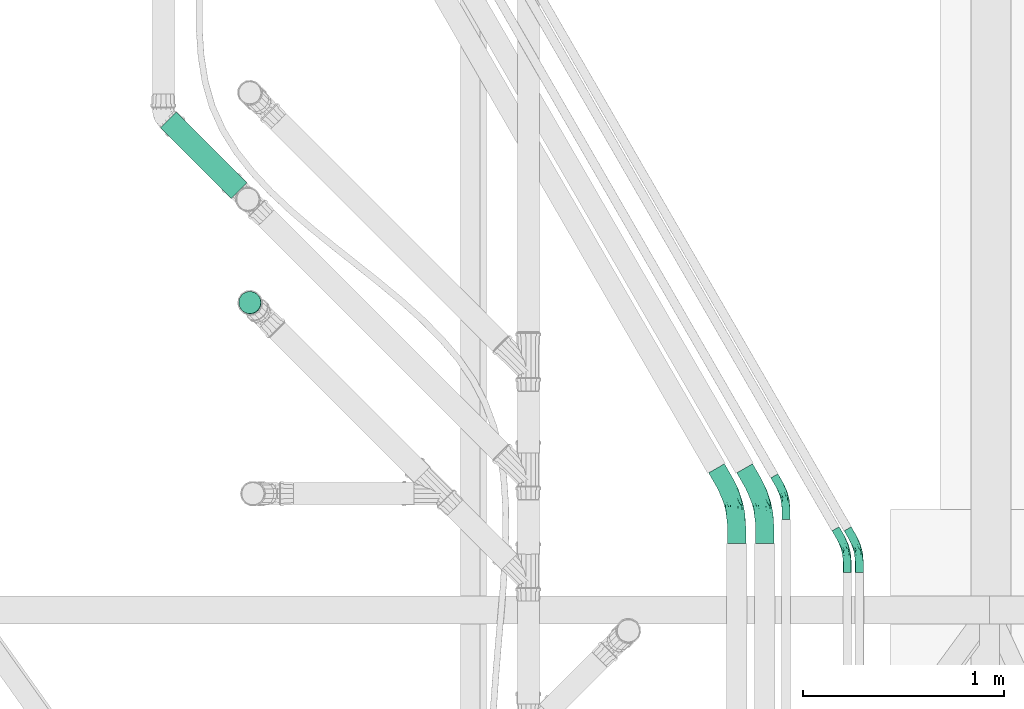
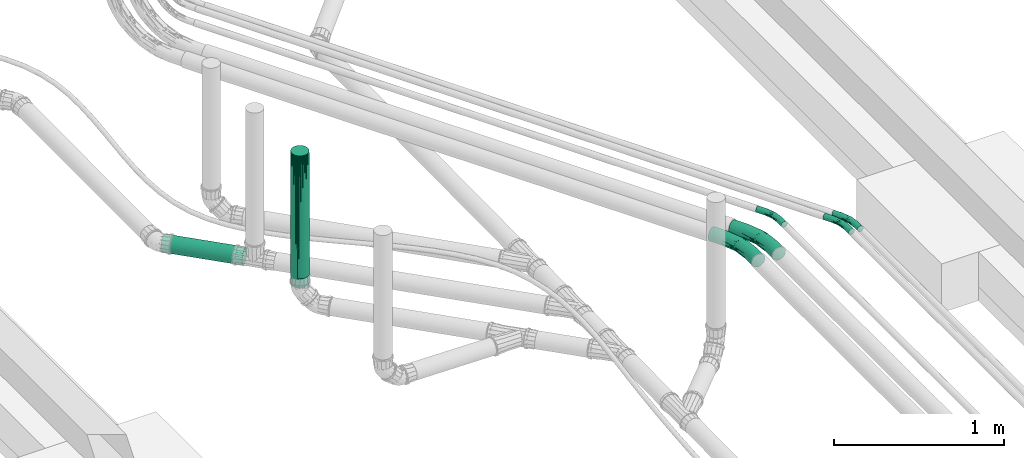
# One storey, part 11 of 18: 5 cable carrier fittings, 3 pipe segments.
"""IFC4 building model written with IfcOpenShell, lengths in centimetres."""

from ifc_helpers import new_model, entity, si_unit, converted_unit, derived_unit, direction, frame, origin, place, context, subcontext, project, spatial, arc, indexed_curve, outline, extrude, polygons, source, transform, mapped, material, type_object, type_shapes, element, save


model = new_model("IFC4")

# Units and contexts
model_context = context("Model", 3, precision=0.001, world=origin(), true_north=direction((6.123233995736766e-17, 1.0)))
body_context = subcontext(model_context, "Body", "Model", "MODEL_VIEW")
ifc_project = project(units=[si_unit("LENGTHUNIT", "METRE", prefix="CENTI"), si_unit("AREAUNIT", "SQUARE_METRE"), converted_unit("PLANEANGLEUNIT", "DEGREE", entity("IfcPlaneAngleMeasure", 0.017453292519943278), si_unit("PLANEANGLEUNIT", "RADIAN"), dimensions=[0, 0, 0, 0, 0, 0, 0]), si_unit("VOLUMEUNIT", "CUBIC_METRE"), derived_unit("THERMALTRANSMITTANCEUNIT", [(si_unit("MASSUNIT", "GRAM", prefix="KILO"), 1), (si_unit("THERMODYNAMICTEMPERATUREUNIT", "KELVIN"), -1), (si_unit("TIMEUNIT", "SECOND"), -3)])], contexts=[model_context])

# Site, building, storey
site_placement = place(None, frame((-0.003347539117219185, 0.0, 0.0)))
site = spatial("IfcSite", under=ifc_project, at=site_placement, Name="Default", CompositionType="ELEMENT")
building_placement = place(site_placement, origin())
building = spatial("IfcBuilding", under=site, at=building_placement, CompositionType="ELEMENT")
storey_placement = place(building_placement, frame((0.0, 0.0, -30.0)))
storey = spatial("IfcBuildingStorey", under=building, at=storey_placement, Name="Fondation B.O.", CompositionType="ELEMENT", Elevation=-30.0)

# Pipe segments
pipe_segment_type = type_object("IfcPipeSegmentType", Name="Canalisation:Valsir PP3", PredefinedType="NOTDEFINED")
pipe_segment_1_placement = place(storey_placement, origin())
element("IfcPipeSegment", 1, at=pipe_segment_1_placement, inside=storey, type_object=pipe_segment_type, Name="Canalisation:Valsir PP3", ObjectType="Canalisation:Valsir PP3", PredefinedType="NOTDEFINED", context=body_context, shape_type="SweptSolid", body=[
    extrude(outline(indexed_curve([(5.499999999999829, 2.1657342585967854e-13), (3.8890872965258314, 3.889087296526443), (8.967493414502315e-14, 5.4999999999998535), (-3.889087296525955, 3.889087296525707), (-5.499999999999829, -2.1657342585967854e-13), (-3.8890872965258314, -3.889087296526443), (-8.967493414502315e-14, -5.4999999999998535), (3.889087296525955, -3.889087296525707)], segments=[arc(1, 2, 3), arc(3, 4, 5), arc(5, 6, 7), arc(7, 8, 1)], self_intersect=False)), frame((-6026.283552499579, -2160.077577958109, -18.1437827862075), z_axis=(-0.0016165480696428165, 0.0016165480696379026, 0.9999973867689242), x_axis=(0.7071067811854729, 0.7071067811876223, 0.0)), (0.0, 0.0, 1.0), 88.1440131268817),
])
pipe_segment_2_placement = place(storey_placement, origin())
element("IfcPipeSegment", 2, at=pipe_segment_2_placement, inside=storey, type_object=pipe_segment_type, Name="Canalisation:Valsir PP3", ObjectType="Canalisation:Valsir PP3", PredefinedType="NOTDEFINED", context=body_context, shape_type="SweptSolid", body=[
    extrude(outline(indexed_curve([(5.500000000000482, 0.0), (3.889087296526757, 3.8890872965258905), (8.662937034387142e-13, 5.500000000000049), (-3.889087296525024, 3.8890872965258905), (-5.4999999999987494, 0.0), (-3.889087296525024, -3.8890872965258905), (8.662937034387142e-13, -5.500000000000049), (3.889087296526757, -3.8890872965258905)], segments=[arc(1, 2, 3), arc(3, 4, 5), arc(5, 6, 7), arc(7, 8, 1)], self_intersect=False)), frame((-6026.426041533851, -2159.935088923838, -24.994335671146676)), (0.0, 0.0, 1.0), 94.68953567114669),
])
pipe_segment_3_placement = place(storey_placement, origin())
element("IfcPipeSegment", 3, at=pipe_segment_3_placement, inside=storey, type_object=pipe_segment_type, Name="Canalisation:Valsir PP3", ObjectType="Canalisation:Valsir PP3", PredefinedType="NOTDEFINED", context=body_context, shape_type="SweptSolid", body=[
    extrude(outline(indexed_curve([(5.5000000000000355, -4.1547311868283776e-14), (3.889087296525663, 3.889087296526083), (-2.8034983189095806e-13, 5.500000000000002), (-3.88908729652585, 3.8890872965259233), (-5.5000000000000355, 1.4476987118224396e-14), (-3.889087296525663, -3.889087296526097), (2.8034983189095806e-13, -5.500000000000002), (3.88908729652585, -3.889087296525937)], segments=[arc(1, 2, 3), arc(3, 4, 5), arc(5, 6, 7), arc(7, 8, 1)], self_intersect=False)), frame((-6066.96057461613, -2069.0164124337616, -37.219289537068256), z_axis=(0.7070891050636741, -0.707053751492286, -0.009999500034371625), x_axis=(0.7070891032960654, 0.7071244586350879, 0.0)), (0.0, 0.0, 1.0), 49.71025077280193),
])

# Cable carrier fittings
ifc_material = material(Name="<Unnamed>")
cable_carrier_fitting_type_1 = type_object("IfcCableCarrierFittingType", Name="Courbure de conduit en plastique rigide - Sans raccords:Raccord TPC BT", PredefinedType="NOTDEFINED", material=ifc_material)
shared_shape_1 = source(origin(), body_context, "Body", "Tessellation", [
    polygons([(-11.598043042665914, -2.050000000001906, -1.936944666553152e-13), (-11.59804304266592, -1.980147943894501, 0.5305790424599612), (-11.598043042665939, -1.7753520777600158, 1.0249999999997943), (-11.598043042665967, -1.4495689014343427, 1.4495689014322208), (-11.598043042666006, -1.025000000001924, 1.7753520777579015), (-11.598043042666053, -0.5305790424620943, 1.9801479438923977), (-11.5980430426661, -1.928082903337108e-12, 2.0499999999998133), (-11.59804304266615, 0.5305790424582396, 1.980147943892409), (-11.598043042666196, 1.024999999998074, 1.7753520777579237), (-11.598043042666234, 1.4495689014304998, 1.4495689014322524), (-11.598043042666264, 1.775352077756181, 1.0249999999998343), (-11.598043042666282, 1.9801479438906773, 0.5305790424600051), (-11.598043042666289, 2.0499999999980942, -1.7382326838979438e-13), (-11.598043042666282, 1.980147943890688, -0.5305790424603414), (-11.598043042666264, 1.7753520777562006, -1.0250000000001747), (-11.598043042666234, 1.4495689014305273, -1.449568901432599), (-11.598043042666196, 1.0249999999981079, -1.7753520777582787), (-11.59804304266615, 0.5305790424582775, -1.980147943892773), (-11.5980430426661, -1.890663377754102e-12, -2.0500000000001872), (-11.598043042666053, -0.5305790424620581, -1.9801479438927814), (-11.598043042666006, -1.0250000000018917, -1.7753520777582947), (-11.598043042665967, -1.4495689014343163, -1.4495689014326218), (-11.598043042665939, -1.7753520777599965, -1.0250000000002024), (-11.59804304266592, -1.9801479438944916, -0.5305790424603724), (-6.207043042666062, -2.050000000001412, -1.936944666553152e-13), (-6.207043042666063, -1.9801479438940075, 0.5305790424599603), (-6.207043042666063, -1.7753520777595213, 1.0249999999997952), (-6.207043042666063, -1.449568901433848, 1.4495689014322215), (-6.207043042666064, -1.0250000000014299, 1.7753520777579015), (-6.207043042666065, -0.5305790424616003, 1.9801479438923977), (-6.207043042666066, -1.434024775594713e-12, 2.0499999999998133), (-6.207043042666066, 0.5305790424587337, 1.980147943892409), (-6.207043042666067, 1.024999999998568, 1.7753520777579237), (-6.207043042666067, 1.4495689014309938, 1.4495689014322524), (-6.207043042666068, 1.7753520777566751, 1.0249999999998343), (-6.207043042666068, 1.9801479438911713, 0.5305790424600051), (-6.207043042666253, 2.049999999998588, -1.610779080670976e-13), (-6.207043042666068, 1.980147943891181, -0.530579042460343), (-6.207043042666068, 1.7753520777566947, -1.0250000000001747), (-6.207043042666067, 1.4495689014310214, -1.449568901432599), (-6.207043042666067, 1.0249999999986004, -1.7753520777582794), (-6.207043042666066, 0.5305790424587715, -1.980147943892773), (-6.207043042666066, -1.394784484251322e-12, -2.0500000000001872), (-6.207043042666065, -0.5305790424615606, -1.980147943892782), (-6.207043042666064, -1.0250000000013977, -1.7753520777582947), (-6.207043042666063, -1.4495689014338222, -1.4495689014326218), (-6.207043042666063, -1.7753520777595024, -1.0250000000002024), (-6.207043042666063, -1.9801479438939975, -0.5305790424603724), (4.35045695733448, 4.878873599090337, -1.7382326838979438e-13), (1.0147122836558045, 3.3233903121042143, -1.7382326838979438e-13), (-2.5404617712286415, 2.3707842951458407, -1.7382326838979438e-13), (-1.8285042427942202, -1.6669274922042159, -1.936944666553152e-13), (2.4169948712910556, -0.529349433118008, -1.936944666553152e-13), (6.400456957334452, 1.3281694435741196, -1.936944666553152e-13), (6.36553092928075, 1.3886630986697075, 0.5305790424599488), (6.263132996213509, 1.5660215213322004, 1.024999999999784), (6.100241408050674, 1.8481580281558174, 1.4495689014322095), (5.887956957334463, 2.215845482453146, 1.7753520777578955), (5.640746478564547, 2.6440265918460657, 1.980147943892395), (5.375456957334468, 3.103521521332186, 2.049999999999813), (5.110167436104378, 3.563016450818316, 1.980147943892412), (4.862956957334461, 3.991197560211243, 1.7753520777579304), (4.650672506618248, 4.358885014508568, 1.449568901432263), (4.4877809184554, 4.6410215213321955, 1.0249999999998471), (4.38538298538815, 4.818379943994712, 0.530579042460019), (0.30061555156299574, -1.1219125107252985, 0.5360938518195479), (0.21074490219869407, -0.7865106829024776, 1.2413464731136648), (-0.006522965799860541, 0.024344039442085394, 1.890842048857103), (-0.2787375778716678, 1.0402628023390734, 2.0334726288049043), (-0.5329282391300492, 1.9889152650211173, 1.6310042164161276), (-0.7009558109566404, 2.616002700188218, 0.7913237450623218), (-0.7325137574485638, 2.733778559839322, 0.38750155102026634), (-0.8382040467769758, -0.6559384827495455, 1.6221343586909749), (-0.9279908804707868, 0.3277755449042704, 2.031547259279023), (-1.0342576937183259, 1.3839449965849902, 1.8965805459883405), (-1.0915708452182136, 2.2383416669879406, 1.2534079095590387), (-1.555750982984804, -1.402739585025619, 0.90551990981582), (2.7627402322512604, -0.20701174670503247, 0.8419216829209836), (4.385382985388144, 4.818379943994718, -0.5305790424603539), (4.487780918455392, 4.641021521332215, -1.025000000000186), (4.650672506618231, 4.358885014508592, -1.4495689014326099), (4.8629569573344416, 3.99119756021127, -1.7753520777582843), (5.1101674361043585, 3.56301645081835, -1.9801479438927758), (5.375456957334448, 3.10352152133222, -2.0500000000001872), (5.640746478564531, 2.6440265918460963, -1.9801479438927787), (5.8879569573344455, 2.2158454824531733, -1.7753520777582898), (6.100241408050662, 1.8481580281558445, -1.4495689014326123), (6.263132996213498, 1.5660215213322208, -1.0250000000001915), (6.365530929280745, 1.3886630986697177, -0.5305790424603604), (0.3006155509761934, -1.1219125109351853, -0.5360938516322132), (0.21074490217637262, -0.786510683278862, -1.2413464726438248), (-0.006522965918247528, 0.02434403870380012, -1.8908420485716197), (-0.2787375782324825, 1.040262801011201, -2.0334726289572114), (-0.5329282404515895, 1.9889152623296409, -1.631004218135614), (-0.7009558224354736, 2.616002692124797, -0.7913237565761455), (-0.7325138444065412, 2.7337785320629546, -0.3875015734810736), (1.0538752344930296, -0.14895736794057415, -1.6221343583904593), (0.6397758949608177, 0.7478573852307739, -2.031547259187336), (0.20372092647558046, 1.7156603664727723, -1.8965805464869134), (-0.17384272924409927, 2.484246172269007, -1.2534079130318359), (2.0486896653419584, -0.43693262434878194, -0.9055199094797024), (-2.289097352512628, -1.5606475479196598, -0.8419216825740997), (11.06919990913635, 4.023669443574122, -1.9278408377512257e-13), (11.034273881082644, 4.084163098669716, -0.5305790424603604), (10.931875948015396, 4.261521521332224, -1.0250000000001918), (10.768984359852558, 4.5436580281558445, -1.449568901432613), (10.556699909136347, 4.911345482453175, -1.7753520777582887), (10.30948943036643, 5.339526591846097, -1.9801479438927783), (10.044199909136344, 5.799021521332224, -2.0500000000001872), (9.778910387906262, 6.258516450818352, -1.9801479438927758), (9.531699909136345, 6.686697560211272, -1.7753520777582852), (9.319415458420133, 7.0543850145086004, -1.4495689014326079), (9.156523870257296, 7.33652152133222, -1.0250000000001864), (9.054125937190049, 7.513879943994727, -0.5305790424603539), (9.019199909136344, 7.57437359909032, -1.6289867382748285e-13), (9.054125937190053, 7.51387994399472, 0.5305790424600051), (9.1565238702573, 7.336521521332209, 1.0249999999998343), (9.319415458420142, 7.0543850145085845, 1.4495689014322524), (9.531699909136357, 6.686697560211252, 1.7753520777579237), (9.778910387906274, 6.258516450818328, 1.980147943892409), (10.044199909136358, 5.799021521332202, 2.0499999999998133), (10.309489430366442, 5.3395265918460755, 1.9801479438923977), (10.556699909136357, 4.911345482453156, 1.7753520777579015), (10.768984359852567, 4.543658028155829, 1.4495689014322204), (10.931875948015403, 4.261521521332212, 1.0249999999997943), (11.034273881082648, 4.084163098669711, 0.5305790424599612)], [[[19, 20, 21, 22, 23, 24, 1, 2, 3, 4, 5, 6, 7, 8, 9, 10, 11, 12, 13, 14, 15, 16, 17, 18]], [[2, 1, 25, 26]], [[27, 3, 2, 26]], [[5, 4, 28, 29]], [[27, 28, 4, 3]], [[6, 5, 29, 30]], [[30, 31, 7, 6]], [[9, 8, 32, 33]], [[34, 10, 9, 33]], [[12, 11, 35, 36]], [[34, 35, 11, 10]], [[13, 12, 36, 37]], [[32, 8, 7, 31]], [[14, 13, 37, 38]], [[39, 15, 14, 38]], [[17, 16, 40, 41]], [[39, 40, 16, 15]], [[18, 17, 41, 42]], [[42, 43, 19, 18]], [[21, 20, 44, 45]], [[46, 22, 21, 45]], [[24, 23, 47, 48]], [[46, 47, 23, 22]], [[1, 24, 48, 25]], [[44, 20, 19, 43]], [[66, 77, 26]], [[52, 26, 25]], [[56, 57, 67]], [[77, 67, 27]], [[68, 29, 73]], [[67, 28, 27]], [[31, 30, 74]], [[30, 29, 68]], [[31, 74, 69]], [[58, 59, 68]], [[29, 28, 73]], [[33, 32, 75]], [[34, 33, 70]], [[35, 34, 76]], [[35, 76, 71]], [[33, 75, 70]], [[62, 63, 70]], [[36, 72, 51]], [[71, 72, 36]], [[67, 77, 78]], [[51, 37, 36]], [[36, 35, 71]], [[65, 72, 71]], [[32, 31, 69]], [[64, 65, 71]], [[66, 52, 53]], [[60, 61, 69]], [[74, 60, 69]], [[58, 73, 57]], [[26, 77, 27]], [[74, 59, 60]], [[26, 52, 66]], [[55, 78, 66]], [[68, 73, 58]], [[67, 78, 56]], [[53, 54, 55]], [[78, 77, 66]], [[30, 68, 74]], [[51, 72, 50]], [[56, 78, 55]], [[49, 50, 65]], [[57, 73, 67]], [[50, 72, 65]], [[34, 70, 76]], [[64, 71, 76]], [[32, 69, 75]], [[64, 76, 63]], [[61, 75, 69]], [[75, 61, 62]], [[75, 62, 70]], [[59, 74, 68]], [[63, 76, 70]], [[55, 66, 53]], [[28, 67, 73]], [[42, 41, 99]], [[89, 101, 88]], [[40, 100, 94]], [[40, 94, 41]], [[37, 51, 38]], [[86, 87, 97]], [[95, 39, 38]], [[45, 92, 97]], [[40, 39, 100]], [[41, 94, 99]], [[81, 94, 100]], [[43, 42, 93]], [[48, 90, 52]], [[52, 25, 48]], [[89, 53, 90]], [[92, 45, 44]], [[48, 102, 90]], [[47, 46, 91]], [[46, 45, 97]], [[43, 98, 44]], [[91, 102, 47]], [[101, 91, 88]], [[50, 96, 51]], [[102, 101, 90]], [[50, 49, 79]], [[91, 101, 102]], [[43, 93, 98]], [[80, 95, 79]], [[94, 81, 82]], [[44, 98, 92]], [[99, 94, 82]], [[46, 97, 91]], [[85, 92, 98]], [[95, 80, 100]], [[83, 93, 99]], [[84, 93, 83]], [[92, 85, 86]], [[38, 96, 95]], [[88, 91, 87]], [[97, 92, 86]], [[79, 96, 50]], [[98, 93, 84]], [[52, 90, 53]], [[51, 96, 38]], [[54, 53, 89]], [[39, 95, 100]], [[82, 83, 99]], [[90, 101, 89]], [[80, 81, 100]], [[47, 102, 48]], [[87, 91, 97]], [[95, 96, 79]], [[42, 99, 93]], [[84, 85, 98]], [[110, 111, 112, 113, 114, 115, 116, 117, 118, 119, 120, 121, 122, 123, 124, 125, 126, 103, 104, 105, 106, 107, 108, 109]], [[55, 54, 103, 126]], [[125, 56, 55, 126]], [[58, 57, 124, 123]], [[125, 124, 57, 56]], [[59, 58, 123, 122]], [[122, 121, 60, 59]], [[62, 61, 120, 119]], [[118, 63, 62, 119]], [[65, 64, 117, 116]], [[118, 117, 64, 63]], [[49, 65, 116, 115]], [[120, 61, 60, 121]], [[49, 115, 114, 79]], [[113, 80, 79, 114]], [[111, 110, 83, 82]], [[112, 111, 82, 81]], [[81, 80, 113, 112]], [[110, 109, 84, 83]], [[86, 85, 108, 107]], [[106, 87, 86, 107]], [[89, 88, 105, 104]], [[106, 105, 88, 87]], [[54, 89, 104, 103]], [[108, 85, 84, 109]]], closed=True),
])
type_shapes(cable_carrier_fitting_type_1, [shared_shape_1])
for number, where, z_axis, x_axis in (
    (4, (-5723.099445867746, -2282.587316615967, -11.0), (0.0, 0.0, 1.0), (0.0, 1.0, 0.0)),
    (5, (-5729.099445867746, -2282.587316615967, -11.0), (0.0, 0.0, 1.0), (0.0, 1.0, 0.0)),
    (6, (-5759.585049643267, -2256.241982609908, -11.0), (0.0, 0.0, 1.0), (0.0, 1.0, 0.0)),
):
    element("IfcCableCarrierFitting", number, at=place(storey_placement, frame(where, z_axis=z_axis, x_axis=x_axis)), inside=storey, type_object=cable_carrier_fitting_type_1, material=ifc_material, Name="Courbure de conduit en plastique rigide - Sans raccords:Raccord TPC BT", ObjectType="Courbure de conduit en plastique rigide - Sans raccords:Raccord TPC BT", PredefinedType="NOTDEFINED", context=body_context, shape_type="MappedRepresentation", body=[
        mapped(shared_shape_1, transform((0.0, 0.0, 0.0), scale=1.0)),
    ])
cable_carrier_fitting_type_2 = type_object("IfcCableCarrierFittingType", Name="Courbure de conduit en plastique rigide - Sans raccords:Raccord TPC HT", PredefinedType="NOTDEFINED", material=ifc_material)
shared_shape_2 = source(origin(), body_context, "Body", "Tessellation", [
    polygons([(-20.011046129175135, -4.5500000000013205, -2.0177218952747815e-13), (-20.01104612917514, -4.394962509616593, 1.1776266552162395), (-20.01104612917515, -3.9404155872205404, 2.2749999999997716), (-20.011046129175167, -3.2173358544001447, 3.2173358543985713), (-20.01104612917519, -2.275000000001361, 3.9404155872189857), (-20.011046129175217, -1.177626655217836, 4.394962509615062), (-20.011046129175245, -1.3695256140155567e-12, 4.549999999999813), (-20.011046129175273, 1.1776266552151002, 4.3949625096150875), (-20.0110461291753, 2.274999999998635, 3.9404155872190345), (-20.011046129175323, 3.2173358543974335, 3.217335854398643), (-20.01104612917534, 3.940415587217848, 2.2749999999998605), (-20.011046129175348, 4.394962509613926, 1.1776266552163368), (-20.01104612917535, 4.54999999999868, -1.5766782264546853e-13), (-20.011046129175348, 4.394962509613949, -1.177626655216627), (-20.01104612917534, 3.940415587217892, -2.2750000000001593), (-20.011046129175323, 3.2173358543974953, -3.217335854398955), (-20.0110461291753, 2.2749999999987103, -3.9404155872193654), (-20.011046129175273, 1.1776266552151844, -4.394962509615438), (-20.011046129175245, -1.286472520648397e-12, -4.550000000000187), (-20.011046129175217, -1.1776266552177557, -4.394962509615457), (-20.01104612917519, -2.2750000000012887, -3.9404155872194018), (-20.011046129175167, -3.217335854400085, -3.217335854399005), (-20.01104612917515, -3.9404155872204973, -2.275000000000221), (-20.01104612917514, -4.394962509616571, -1.1776266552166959), (-11.570046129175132, -4.55000000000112, -2.0177218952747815e-13), (-11.570046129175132, -4.394962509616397, 1.177626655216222), (-11.570046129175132, -3.9404155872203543, 2.2749999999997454), (-11.570046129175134, -3.217335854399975, 3.2173358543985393), (-11.570046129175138, -2.2750000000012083, 3.9404155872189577), (-11.57004612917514, -1.177626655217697, 4.394962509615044), (-11.570046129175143, -1.232876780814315e-12, 4.549999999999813), (-11.570046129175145, 1.1776266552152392, 4.3949625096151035), (-11.570046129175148, 2.2749999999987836, 3.940415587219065), (-11.57004612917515, 3.2173358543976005, 3.2173358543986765), (-11.570046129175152, 3.940415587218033, 2.274999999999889), (-11.570046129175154, 4.394962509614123, 1.1776266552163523), (-11.570046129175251, 4.549999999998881, -1.2937933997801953e-13), (-11.570046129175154, 4.394962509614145, -1.1776266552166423), (-11.570046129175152, 3.9404155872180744, -2.2750000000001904), (-11.57004612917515, 3.217335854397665, -3.217335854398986), (-11.570046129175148, 2.2749999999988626, -3.9404155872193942), (-11.570046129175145, 1.1776266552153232, -4.394962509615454), (-11.570046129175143, -1.1498236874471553e-12, -4.550000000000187), (-11.57004612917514, -1.177626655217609, -4.394962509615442), (-11.570046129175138, -2.2750000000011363, -3.940415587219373), (-11.570046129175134, -3.217335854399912, -3.2173358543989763), (-11.570046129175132, -3.940415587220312, -2.275000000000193), (-11.570046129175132, -4.394962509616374, -1.1776266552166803), (7.744953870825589, 9.725438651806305, -1.5766782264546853e-13), (1.6421920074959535, 6.879674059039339, -1.5766782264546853e-13), (-4.862017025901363, 5.136876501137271, -1.5766782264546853e-13), (-5.340030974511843, -4.1416632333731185, -2.0177218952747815e-13), (0.7833868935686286, -2.923639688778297, -2.0177218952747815e-13), (6.695434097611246, -0.9167700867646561, -2.0177218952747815e-13), (12.294953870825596, 1.8446074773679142, -2.0177218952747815e-13), (12.21743512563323, 1.978873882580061, 1.1776266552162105), (11.990161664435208, 2.372523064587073, 2.274999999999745), (11.628621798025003, 2.9987284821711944, 3.217335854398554), (11.157453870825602, 3.8148152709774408, 3.9404155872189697), (10.608767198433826, 4.7651684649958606, 4.394962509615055), (10.019953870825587, 5.785023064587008, 4.549999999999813), (9.431140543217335, 6.804877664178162, 4.3949625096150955), (8.882453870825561, 7.755230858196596, 3.940415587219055), (8.411285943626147, 8.57131764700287, 3.2173358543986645), (8.049746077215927, 9.197523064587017, 2.2749999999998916), (7.8224726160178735, 9.591172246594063, 1.1776266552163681), (0.695967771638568, -2.5973870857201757, 1.7203334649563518), (-2.311429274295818, -3.5565090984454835, 0.8765885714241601), (0.3271298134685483, -1.2208650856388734, 3.596421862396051), (-0.23511505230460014, 0.8774613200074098, 4.508271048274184), (-0.8400229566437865, 3.135008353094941, 4.211404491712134), (-1.3254116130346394, 4.9465034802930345, 2.785415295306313), (-1.4779906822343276, -2.5198833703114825, 2.7552170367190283), (-1.6101258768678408, -0.6404906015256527, 4.1966038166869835), (-1.844254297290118, 1.7007703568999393, 4.513418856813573), (-0.923555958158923, 5.678629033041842, 1.7579878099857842), (-1.5504736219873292, 5.786446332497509, 0.8633263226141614), (-2.0431008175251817, 3.8940767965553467, 3.6207935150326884), (5.085337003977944, -1.4123919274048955, 1.0745501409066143), (7.822472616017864, 9.591172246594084, -1.1776266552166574), (8.0497460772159, 9.197523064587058, -2.275000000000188), (8.411285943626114, 8.57131764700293, -3.2173358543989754), (8.88245387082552, 7.75523085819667, -3.9404155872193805), (9.431140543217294, 6.804877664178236, -4.394962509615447), (10.019953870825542, 5.785023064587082, -4.550000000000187), (10.608767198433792, 4.765168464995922, -4.394962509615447), (11.157453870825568, 3.8148152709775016, -3.940415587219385), (11.628621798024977, 2.998728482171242, -3.217335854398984), (11.990161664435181, 2.372523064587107, -2.2750000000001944), (12.217435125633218, 1.9788738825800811, -1.1776266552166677), (0.6959677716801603, -2.597387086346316, -1.720333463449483), (3.7800110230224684, -1.9243125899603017, -0.8765885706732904), (0.32712981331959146, -1.2208650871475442, -3.596421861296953), (-0.23511505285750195, 0.8774613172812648, -4.508271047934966), (-0.8400229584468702, 3.1350083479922, -4.21140449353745), (-1.3254116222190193, 4.946503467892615, -2.785415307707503), (2.539919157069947, -1.4432876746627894, -2.7552170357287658), (1.7146551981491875, 0.25038180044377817, -4.196603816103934), (0.7467858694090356, 2.3950374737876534, -4.513418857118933), (-2.039491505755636, 5.379614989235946, -1.757987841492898), (-1.550473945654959, 5.786446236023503, -0.8633263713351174), (-0.17766119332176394, 4.39391983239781, -3.6207935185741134), (-3.6978350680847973, -3.7658357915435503, -1.0745501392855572), (19.60507430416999, 6.065107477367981, -1.9975158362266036e-13), (19.527555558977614, 6.199373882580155, -1.1776266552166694), (19.30028209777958, 6.593023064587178, -2.2750000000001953), (18.93874223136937, 7.219228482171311, -3.2173358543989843), (18.467574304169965, 8.035315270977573, -3.9404155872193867), (17.918887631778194, 8.985668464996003, -4.394962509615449), (17.330074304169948, 10.005523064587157, -4.550000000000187), (16.7412609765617, 11.025377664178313, -4.394962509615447), (16.192574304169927, 11.975730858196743, -3.9404155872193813), (15.721406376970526, 12.791817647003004, -3.2173358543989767), (15.359866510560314, 13.418023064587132, -2.275000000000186), (15.132593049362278, 13.811672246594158, -1.1776266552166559), (15.055074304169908, 13.945938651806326, -1.3342055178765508e-13), (15.132593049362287, 13.811672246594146, 1.1776266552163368), (15.359866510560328, 13.418023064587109, 2.2749999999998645), (15.721406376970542, 12.79181764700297, 3.217335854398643), (16.192574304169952, 11.975730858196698, 3.940415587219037), (16.741260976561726, 11.025377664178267, 4.3949625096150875), (17.330074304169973, 10.00552306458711, 4.549999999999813), (17.91888763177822, 8.985668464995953, 4.39496250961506), (18.46757430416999, 8.035315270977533, 3.9404155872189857), (18.938742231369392, 7.2192284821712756, 3.21733585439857), (19.300282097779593, 6.593023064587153, 2.2749999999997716), (19.527555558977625, 6.199373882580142, 1.1776266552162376)], [[[17, 18, 19, 20, 21, 22, 23, 24, 1, 2, 3, 4, 5, 6, 7, 8, 9, 10, 11, 12, 13, 14, 15, 16]], [[2, 1, 25, 26]], [[27, 3, 2, 26]], [[5, 4, 28, 29]], [[27, 28, 4, 3]], [[6, 5, 29, 30]], [[30, 31, 7, 6]], [[9, 8, 32, 33]], [[34, 10, 9, 33]], [[12, 11, 35, 36]], [[34, 35, 11, 10]], [[13, 12, 36, 37]], [[32, 8, 7, 31]], [[14, 13, 37, 38]], [[39, 15, 14, 38]], [[17, 16, 40, 41]], [[39, 40, 16, 15]], [[18, 17, 41, 42]], [[42, 43, 19, 18]], [[21, 20, 44, 45]], [[46, 22, 21, 45]], [[24, 23, 47, 48]], [[46, 47, 23, 22]], [[1, 24, 48, 25]], [[44, 20, 19, 43]], [[26, 67, 27]], [[52, 26, 25]], [[26, 68, 67]], [[79, 53, 54]], [[28, 69, 29]], [[28, 73, 69]], [[30, 29, 74]], [[74, 70, 30]], [[70, 31, 30]], [[58, 59, 69]], [[28, 27, 73]], [[32, 31, 75]], [[78, 72, 34]], [[34, 33, 78]], [[72, 35, 34]], [[71, 33, 32]], [[62, 63, 71]], [[27, 67, 73]], [[76, 77, 36]], [[57, 67, 79]], [[51, 37, 36]], [[35, 72, 76]], [[57, 73, 67]], [[75, 71, 32]], [[64, 65, 72]], [[53, 68, 52]], [[60, 61, 70]], [[70, 74, 60]], [[33, 71, 78]], [[59, 60, 74]], [[79, 67, 68]], [[75, 62, 71]], [[58, 69, 73]], [[79, 68, 53]], [[58, 73, 57]], [[57, 79, 56]], [[54, 55, 56]], [[63, 78, 71]], [[31, 70, 75]], [[51, 77, 50]], [[26, 52, 68]], [[49, 50, 66]], [[59, 74, 69]], [[76, 72, 65]], [[36, 77, 51]], [[63, 64, 78]], [[77, 66, 50]], [[66, 76, 65]], [[35, 76, 36]], [[64, 72, 78]], [[75, 61, 62]], [[61, 75, 70]], [[66, 77, 76]], [[79, 54, 56]], [[29, 69, 74]], [[41, 95, 42]], [[41, 102, 95]], [[83, 95, 102]], [[41, 40, 102]], [[37, 51, 38]], [[86, 87, 98]], [[100, 96, 39]], [[44, 94, 98]], [[39, 96, 40]], [[40, 96, 102]], [[38, 101, 100]], [[99, 43, 42]], [[91, 92, 103]], [[52, 25, 48]], [[91, 103, 47]], [[44, 98, 45]], [[47, 103, 48]], [[97, 47, 46]], [[45, 93, 46]], [[94, 44, 43]], [[88, 89, 97]], [[50, 101, 51]], [[103, 92, 53]], [[50, 49, 80]], [[90, 54, 92]], [[100, 81, 96]], [[91, 90, 92]], [[42, 95, 99]], [[82, 96, 81]], [[95, 83, 84]], [[38, 51, 101]], [[99, 95, 84]], [[85, 94, 99]], [[43, 99, 94]], [[96, 82, 102]], [[81, 100, 80]], [[86, 94, 85]], [[93, 87, 88]], [[87, 93, 98]], [[92, 54, 53]], [[103, 53, 52]], [[93, 88, 97]], [[98, 94, 86]], [[52, 48, 103]], [[89, 91, 97]], [[55, 54, 90]], [[39, 38, 100]], [[82, 83, 102]], [[90, 91, 89]], [[47, 97, 91]], [[46, 93, 97]], [[45, 98, 93]], [[80, 100, 101]], [[80, 101, 50]], [[84, 85, 99]], [[114, 115, 116, 117, 118, 119, 120, 121, 122, 123, 124, 125, 126, 127, 104, 105, 106, 107, 108, 109, 110, 111, 112, 113]], [[56, 55, 104, 127]], [[126, 57, 56, 127]], [[59, 58, 125, 124]], [[126, 125, 58, 57]], [[60, 59, 124, 123]], [[123, 122, 61, 60]], [[63, 62, 121, 120]], [[119, 64, 63, 120]], [[66, 65, 118, 117]], [[119, 118, 65, 64]], [[49, 66, 117, 116]], [[121, 62, 61, 122]], [[49, 116, 115, 80]], [[114, 81, 80, 115]], [[82, 113, 112, 83]], [[84, 83, 112, 111]], [[82, 81, 114, 113]], [[111, 110, 85, 84]], [[87, 86, 109, 108]], [[107, 88, 87, 108]], [[90, 89, 106, 105]], [[107, 106, 89, 88]], [[55, 90, 105, 104]], [[109, 86, 85, 110]]], closed=True),
])
type_shapes(cable_carrier_fitting_type_2, [shared_shape_2])
for number, where, z_axis, x_axis in (
    (7, (-5770.152502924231, -2259.7733821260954, -21.0), (0.0, 0.0, 1.0), (0.0, 1.0, 0.0)),
    (8, (-5784.152502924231, -2259.7733821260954, -21.0), (0.0, 0.0, 1.0), (0.0, 1.0, 0.0)),
):
    element("IfcCableCarrierFitting", number, at=place(storey_placement, frame(where, z_axis=z_axis, x_axis=x_axis)), inside=storey, type_object=cable_carrier_fitting_type_2, material=ifc_material, Name="Courbure de conduit en plastique rigide - Sans raccords:Raccord TPC HT", ObjectType="Courbure de conduit en plastique rigide - Sans raccords:Raccord TPC HT", PredefinedType="NOTDEFINED", context=body_context, shape_type="MappedRepresentation", body=[
        mapped(shared_shape_2, transform((0.0, 0.0, 0.0), scale=1.0)),
    ])

save(model, "model.ifc")
